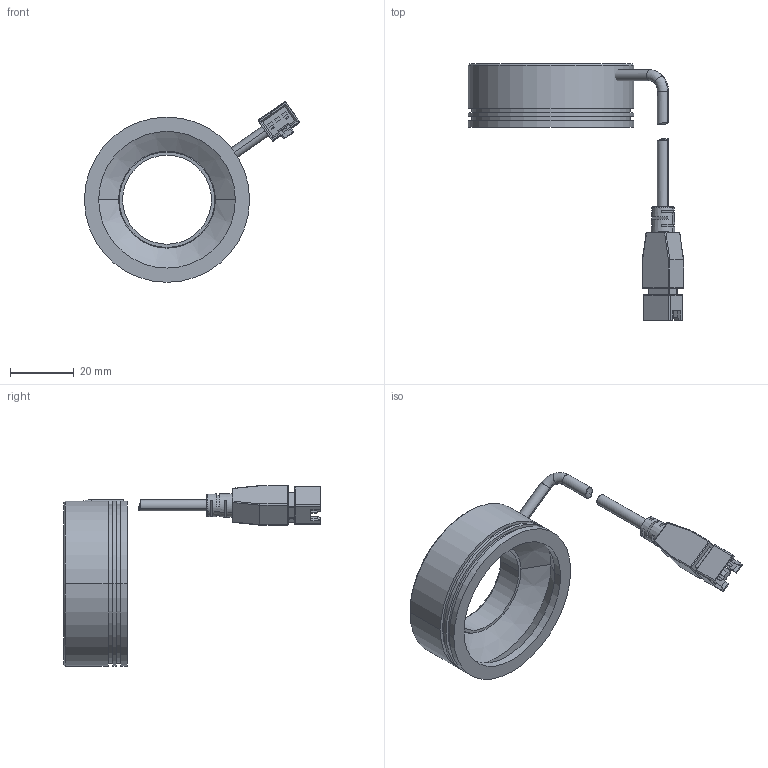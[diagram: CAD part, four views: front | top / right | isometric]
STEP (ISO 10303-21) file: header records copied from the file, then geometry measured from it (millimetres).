
FILE_DESCRIPTION((''),'2;1');
FILE_NAME('MV-LRDS-52-60_ASM','2019-09-19T',('rs-zhongwm'),(''),'PRO/ENGINEER BY PARAMETRIC TECHNOLOGY CORPORATION, 2010100','PRO/ENGINEER BY PARAMETRIC TECHNOLOGY CORPORATION, 2010100','');
FILE_SCHEMA(('CONFIG_CONTROL_DESIGN'));
Length unit declared in the file: millimetre
Products named in the file (5): PRT0001_3; LINE_TOU_1; BODY_12_1; XIANLAN-_ASM_1_ASM; MV-LRDS-52-60_ASM
Assembly tree (4 placements, depth 3):
  MV-LRDS-52-60_ASM
    PRT0001_3
    XIANLAN-_ASM_1_ASM
      LINE_TOU_1
      BODY_12_1
Bounding box: 67.73 x 80.8 x 56.87 mm (x, y, z)
Volume: 22715.1 mm3; surface area: 12099.9 mm2
Topology: 3 solids, 7 shells, 283 faces, 712 edges, 443 vertices
Faces by surface type: plane 140, cylinder 97, cone 18, torus 12, bspline 8, sphere 8
Entity records: 8753 total; most frequent: CARTESIAN_POINT 1844, DIRECTION 1464, ORIENTED_EDGE 1376, EDGE_CURVE 696, AXIS2_PLACEMENT_3D 526, VERTEX_POINT 443, VECTOR 412, LINE 412
